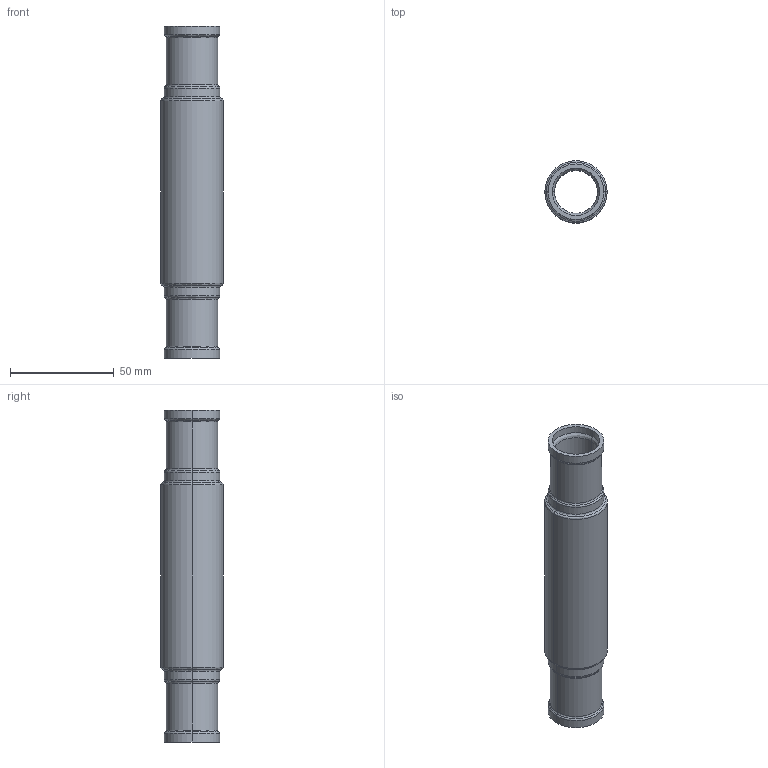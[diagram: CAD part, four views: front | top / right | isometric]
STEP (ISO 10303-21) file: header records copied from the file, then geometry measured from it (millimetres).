
FILE_DESCRIPTION (( 'STEP AP214' ), '1' );
FILE_NAME ('115.301.007.STEP', '2023-06-15T07:43:13', ( '' ), ( '' ), 'SwSTEP 2.0', 'SolidWorks 2021', '' );
FILE_SCHEMA (( 'AUTOMOTIVE_DESIGN' ));
Length unit declared in the file: millimetre
Products named in the file (1): 115.301.007
Bounding box: 30 x 30 x 160 mm (x, y, z)
Volume: 26545 mm3; surface area: 26836.3 mm2
Topology: 1 solids, 1 shells, 66 faces, 132 edges, 68 vertices
Faces by surface type: bspline 36, cylinder 28, plane 2
Entity records: 2134 total; most frequent: CARTESIAN_POINT 807, DIRECTION 298, ORIENTED_EDGE 264, AXIS2_PLACEMENT_3D 135, EDGE_CURVE 132, CIRCLE 104, VERTEX_POINT 68, EDGE_LOOP 68
